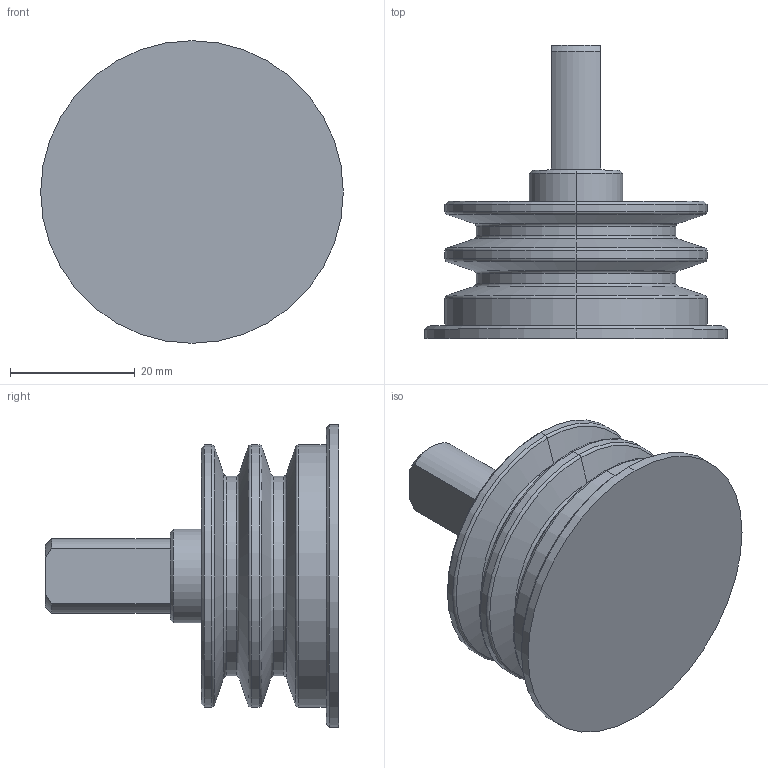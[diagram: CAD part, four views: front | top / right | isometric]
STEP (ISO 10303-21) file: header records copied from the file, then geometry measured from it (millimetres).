
FILE_DESCRIPTION (( 'STEP AP203' ), '1' );
FILE_NAME ('“ü—Í‘¤BH486OVP.STEP', '2022-05-30T00:47:38', ( '' ), ( '' ), 'SwSTEP 2.0', 'SolidWorks 2017', '' );
FILE_SCHEMA (( 'CONFIG_CONTROL_DESIGN' ));
Length unit declared in the file: millimetre
Products named in the file (1): 入力側BH486OVP
Bounding box: 48.5 x 47 x 48.5 mm (x, y, z)
Volume: 28783 mm3; surface area: 9185.9 mm2
Topology: 1 solids, 1 shells, 60 faces, 123 edges, 69 vertices
Faces by surface type: cylinder 19, cone 17, torus 16, plane 8
Entity records: 1655 total; most frequent: DIRECTION 320, CARTESIAN_POINT 265, ORIENTED_EDGE 246, AXIS2_PLACEMENT_3D 140, EDGE_CURVE 123, CIRCLE 79, VERTEX_POINT 69, EDGE_LOOP 64
